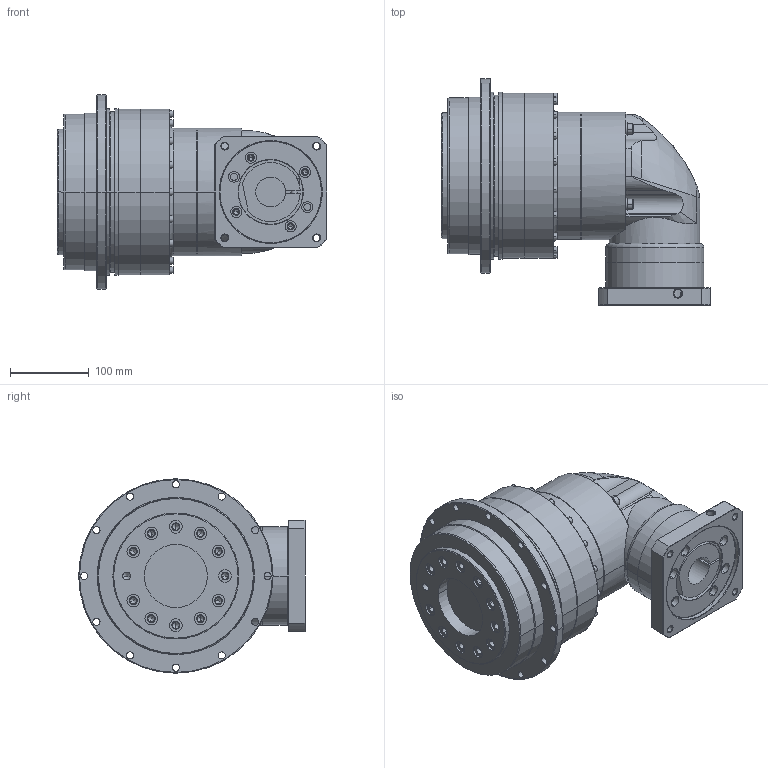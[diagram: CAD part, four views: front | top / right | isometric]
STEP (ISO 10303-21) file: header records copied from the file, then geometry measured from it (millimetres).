
FILE_DESCRIPTION((''),'2;1');
FILE_NAME('ADR2002-P0403500401_ASM','2008-09-02T',('d00080'),(''),'PRO/ENGINEER BY PARAMETRIC TECHNOLOGY CORPORATION, 2006170','PRO/ENGINEER BY PARAMETRIC TECHNOLOGY CORPORATION, 2006170','');
FILE_SCHEMA(('CONFIG_CONTROL_DESIGN'));
Length unit declared in the file: millimetre
Products named in the file (11): AD200-2; PH260001; 220120610; AH_RING_GEAR-SET2-6_ASM; P1002500001; 233100005; 220100815; HOUSING-SET-5_ASM; P1305500001; P0403500401; ADR2002-P0403500401_ASM
Assembly tree (33 placements, depth 3):
  ADR2002-P0403500401_ASM
    AD200-2
    AH_RING_GEAR-SET2-6_ASM
      PH260001
      220120610  x18
    HOUSING-SET-5_ASM
      P1002500001
      233100005  x4
      220100815  x4
    P1305500001
    P0403500401
Bounding box: 342 x 288 x 247 mm (x, y, z)
Volume: 8565665.2 mm3; surface area: 599957 mm2
Topology: 31 solids, 81 shells, 1479 faces, 3332 edges, 1996 vertices
Faces by surface type: cylinder 632, plane 482, cone 274, torus 73, bspline 18
Entity records: 25302 total; most frequent: CARTESIAN_POINT 5355, DIRECTION 4621, ORIENTED_EDGE 3564, AXIS2_PLACEMENT_3D 1953, EDGE_CURVE 1882, VERTEX_POINT 1212, CIRCLE 1068, EDGE_LOOP 1054
